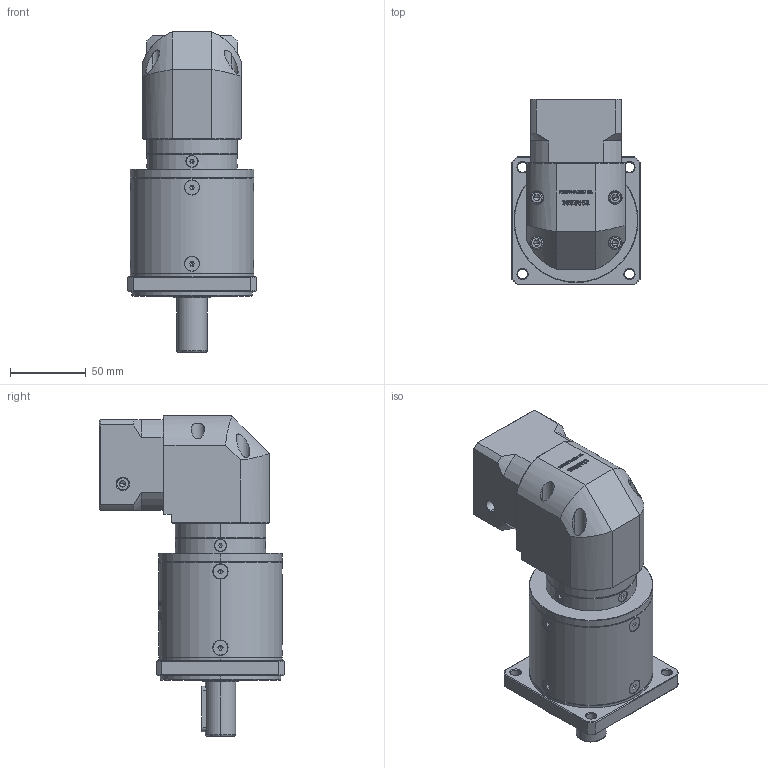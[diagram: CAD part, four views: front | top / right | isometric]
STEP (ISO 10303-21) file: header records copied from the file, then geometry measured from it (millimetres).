
FILE_DESCRIPTION (( 'STEP AP214' ), '1' );
FILE_NAME ('ZFR80-D20-L3-6.35-38.1-47.14x47.14-M4.step', '2022-05-08T14:52:16', ( '' ), ( 'Microsoft' ), 'SwSTEP 2.0', 'SolidWorks 2016', '' );
FILE_SCHEMA (( 'AUTOMOTIVE_DESIGN' ));
Length unit declared in the file: millimetre
Products named in the file (1): ZFR80-D20-L3-6.35-38.1-47.14x47.14-M4
Bounding box: 85 x 122.7 x 212 mm (x, y, z)
Volume: 893249.7 mm3; surface area: 109002.9 mm2
Topology: 17 solids, 18 shells, 3074 faces, 8174 edges, 5258 vertices
Faces by surface type: plane 1602, bspline 620, cylinder 462, cone 382, torus 8
Entity records: 163663 total; most frequent: CARTESIAN_POINT 58818, ORIENTED_EDGE 16256, DIRECTION 12349, EDGE_CURVE 8128, VERTEX_POINT 5258, LINE 4971, VECTOR 4971, AXIS2_PLACEMENT_3D 3689
